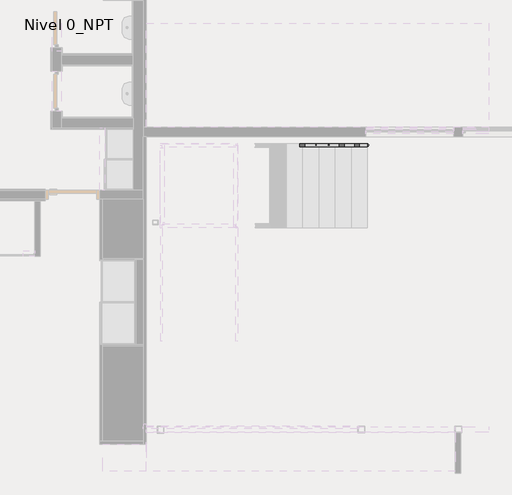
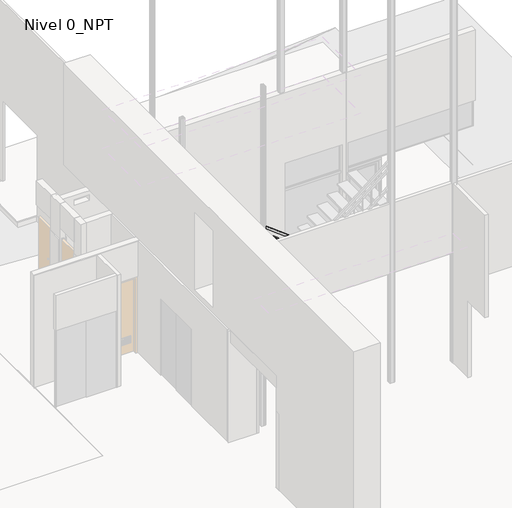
# One storey, part 9 of 10: 1 railing.
"""IFC4 building model written with IfcOpenShell, lengths in millimetres."""

from ifc_helpers import new_model, si_unit, point, frame, frame_2d, origin, place, context, project, spatial, circle_curve, ellipse_curve, trimmed, segment, composite_curve, outline, extrude, faceted_brep, element, save
from ifc_brep_helpers import plane_surface, cylinder_surface, advanced_brep

model = new_model("IFC4")

# Units and contexts
model_context = context("Model", 3, world=origin())
ifc_project = project(units=[si_unit("LENGTHUNIT", "METRE", prefix="MILLI")], contexts=[model_context])

# Site, building, storey
site = spatial("IfcSite", under=ifc_project)
building = spatial("IfcBuilding", under=site)
storey = spatial("IfcBuildingStorey", under=building, Name="Nivel 0_NPT", Elevation=0.0)

# Railing
placement = place(None, origin())
element("IfcRailing", 1, ObjectType="ARQ-BA-IN-Hi-Escalera", at=placement, inside=storey, context=model_context, shape_type="SolidModel", body=[
    faceted_brep([(9758.8126262, 6194.2250843, 1105.2017168), (9758.8126262, 6194.2250843, 1042.3471993), (9758.8126262, 6244.2250843, 1042.3471993), (9758.8126262, 6244.2250843, 1105.2017168), (7531.1003156, 6194.2250843, 2802.1807063), (7514.2255239, 6194.2250843, 2752.1807063), (7514.2255239, 6244.2250843, 2752.1807063), (7531.1003156, 6244.2250843, 2802.1807063), (6369.2126262, 6194.2250843, 2802.1807063), (6369.2126262, 6194.2250843, 2752.1807063), (6319.2126262, 6244.2250843, 2752.1807063), (6319.2126262, 6244.2250843, 2802.1807063), (6369.2126262, 5044.469706, 2802.1807063), (6369.2126262, 5027.4566897, 2752.1807063), (6319.2126262, 5027.4566897, 2752.1807063), (6319.2126262, 5044.469706, 2802.1807063), (6369.2126262, 3241.7500845, 4189.6), (6369.2126262, 3224.7370682, 4139.6), (6319.2126262, 3224.7370682, 4139.6), (6319.2126262, 3241.7500845, 4189.6), (6369.2126262, 2851.3500845, 4189.6), (6369.2126262, 2851.3500845, 4139.6), (6319.2126262, 2901.3500845, 4139.6), (6319.2126262, 2901.3500845, 4189.6), (6085.2126262, 2851.3500845, 4189.6), (6085.2126262, 2851.3500845, 4139.6), (6035.2126262, 2901.3500845, 4139.6), (6035.2126262, 2901.3500845, 4189.6), (6085.2126262, 2807.5750625, 4189.6), (6035.2126262, 2807.5750625, 4189.6), (6035.2126262, 2807.5750625, 4139.6), (6085.2126262, 2807.5750625, 4139.6)], [[[0, 1, 2, 3]], [[1, 0, 4, 5]], [[2, 1, 5, 6]], [[3, 2, 6, 7]], [[0, 3, 7, 4]], [[5, 4, 8, 9]], [[6, 5, 9, 10]], [[7, 6, 10, 11]], [[4, 7, 11, 8]], [[9, 8, 12, 13]], [[10, 9, 13, 14]], [[11, 10, 14, 15]], [[8, 11, 15, 12]], [[13, 12, 16, 17]], [[14, 13, 17, 18]], [[15, 14, 18, 19]], [[12, 15, 19, 16]], [[17, 16, 20, 21]], [[18, 17, 21, 22]], [[19, 18, 22, 23]], [[16, 19, 23, 20]], [[21, 20, 24, 25]], [[22, 21, 25, 26]], [[23, 22, 26, 27]], [[20, 23, 27, 24]], [[28, 29, 30, 31]], [[25, 24, 28, 31]], [[26, 25, 31, 30]], [[27, 26, 30, 29]], [[24, 27, 29, 28]]]),
    faceted_brep([(9758.8126262, 6244.2250843, 905.2017168), (9758.8126262, 6194.2250843, 905.2017168), (9758.8126262, 6194.2250843, 842.3471993), (9758.8126262, 6244.2250843, 842.3471993), (7531.1003156, 6244.2250843, 2602.1807063), (7531.1003156, 6194.2250843, 2602.1807063), (7514.2255239, 6194.2250843, 2552.1807063), (7514.2255239, 6244.2250843, 2552.1807063), (6319.2126262, 6244.2250843, 2602.1807063), (6319.2126262, 6244.2250843, 2552.1807063), (6369.2126262, 6194.2250843, 2552.1807063), (6369.2126262, 6194.2250843, 2602.1807063)], [[[0, 1, 2, 3]], [[1, 0, 4, 5]], [[2, 1, 5, 6]], [[3, 2, 6, 7]], [[0, 3, 7, 4]], [[8, 9, 10, 11]], [[5, 4, 8, 11]], [[6, 5, 11, 10]], [[7, 6, 10, 9]], [[4, 7, 9, 8]]]),
    faceted_brep([(6319.2126262, 6244.2250843, 2602.1807063), (6369.2126262, 6194.2250843, 2602.1807063), (6369.2126262, 6194.2250843, 2552.1807063), (6319.2126262, 6244.2250843, 2552.1807063), (6319.2126262, 5044.469706, 2602.1807063), (6369.2126262, 5044.469706, 2602.1807063), (6369.2126262, 5027.4566897, 2552.1807063), (6319.2126262, 5027.4566897, 2552.1807063), (6319.2126262, 3241.7500845, 3989.6), (6369.2126262, 3241.7500845, 3989.6), (6369.2126262, 3224.7370682, 3939.6), (6319.2126262, 3224.7370682, 3939.6), (6319.2126262, 2901.3500845, 3989.6), (6319.2126262, 2901.3500845, 3939.6), (6369.2126262, 2851.3500845, 3939.6), (6369.2126262, 2851.3500845, 3989.6)], [[[0, 1, 2, 3]], [[1, 0, 4, 5]], [[2, 1, 5, 6]], [[3, 2, 6, 7]], [[0, 3, 7, 4]], [[5, 4, 8, 9]], [[6, 5, 9, 10]], [[7, 6, 10, 11]], [[4, 7, 11, 8]], [[12, 13, 14, 15]], [[9, 8, 12, 15]], [[10, 9, 15, 14]], [[11, 10, 14, 13]], [[8, 11, 13, 12]]]),
    faceted_brep([(6319.2126262, 2901.3500845, 3989.6), (6369.2126262, 2851.3500845, 3989.6), (6369.2126262, 2851.3500845, 3939.6), (6319.2126262, 2901.3500845, 3939.6), (6035.2126262, 2901.3500845, 3989.6), (6035.2126262, 2901.3500845, 3939.6), (6085.2126262, 2851.3500845, 3939.6), (6085.2126262, 2851.3500845, 3989.6)], [[[0, 1, 2, 3]], [[4, 5, 6, 7]], [[1, 0, 4, 7]], [[2, 1, 7, 6]], [[3, 2, 6, 5]], [[0, 3, 5, 4]]]),
    faceted_brep([(6035.2126262, 2901.3500845, 3989.6), (6085.2126262, 2851.3500845, 3989.6), (6085.2126262, 2851.3500845, 3939.6), (6035.2126262, 2901.3500845, 3939.6), (6035.2126262, 2807.5750625, 3989.6), (6035.2126262, 2807.5750625, 3939.6), (6085.2126262, 2807.5750625, 3939.6), (6085.2126262, 2807.5750625, 3989.6)], [[[0, 1, 2, 3]], [[4, 5, 6, 7]], [[1, 0, 4, 7]], [[2, 1, 7, 6]], [[3, 2, 6, 5]], [[0, 3, 5, 4]]]),
    faceted_brep([(9758.8126262, 6244.2250843, 405.2017168), (9758.8126262, 6194.2250843, 405.2017168), (9758.8126262, 6194.2250843, 342.3471993), (9758.8126262, 6244.2250843, 342.3471993), (7531.1003156, 6244.2250843, 2102.1807063), (7531.1003156, 6194.2250843, 2102.1807063), (7514.2255239, 6194.2250843, 2052.1807063), (7514.2255239, 6244.2250843, 2052.1807063), (6319.2126262, 6244.2250843, 2102.1807063), (6319.2126262, 6244.2250843, 2052.1807063), (6369.2126262, 6194.2250843, 2052.1807063), (6369.2126262, 6194.2250843, 2102.1807063)], [[[0, 1, 2, 3]], [[1, 0, 4, 5]], [[2, 1, 5, 6]], [[3, 2, 6, 7]], [[0, 3, 7, 4]], [[8, 9, 10, 11]], [[5, 4, 8, 11]], [[6, 5, 11, 10]], [[7, 6, 10, 9]], [[4, 7, 9, 8]]]),
    faceted_brep([(6319.2126262, 6244.2250843, 2102.1807063), (6369.2126262, 6194.2250843, 2102.1807063), (6369.2126262, 6194.2250843, 2052.1807063), (6319.2126262, 6244.2250843, 2052.1807063), (6319.2126262, 5044.469706, 2102.1807063), (6369.2126262, 5044.469706, 2102.1807063), (6369.2126262, 5027.4566897, 2052.1807063), (6319.2126262, 5027.4566897, 2052.1807063), (6319.2126262, 3241.7500845, 3489.6), (6369.2126262, 3241.7500845, 3489.6), (6369.2126262, 3224.7370682, 3439.6), (6319.2126262, 3224.7370682, 3439.6), (6319.2126262, 2901.3500845, 3489.6), (6319.2126262, 2901.3500845, 3439.6), (6369.2126262, 2851.3500845, 3439.6), (6369.2126262, 2851.3500845, 3489.6)], [[[0, 1, 2, 3]], [[1, 0, 4, 5]], [[2, 1, 5, 6]], [[3, 2, 6, 7]], [[0, 3, 7, 4]], [[5, 4, 8, 9]], [[6, 5, 9, 10]], [[7, 6, 10, 11]], [[4, 7, 11, 8]], [[12, 13, 14, 15]], [[9, 8, 12, 15]], [[10, 9, 15, 14]], [[11, 10, 14, 13]], [[8, 11, 13, 12]]]),
    faceted_brep([(6319.2126262, 2901.3500845, 3489.6), (6369.2126262, 2851.3500845, 3489.6), (6369.2126262, 2851.3500845, 3439.6), (6319.2126262, 2901.3500845, 3439.6), (6035.2126262, 2901.3500845, 3489.6), (6035.2126262, 2901.3500845, 3439.6), (6085.2126262, 2851.3500845, 3439.6), (6085.2126262, 2851.3500845, 3489.6)], [[[0, 1, 2, 3]], [[4, 5, 6, 7]], [[1, 0, 4, 7]], [[2, 1, 7, 6]], [[3, 2, 6, 5]], [[0, 3, 5, 4]]]),
    faceted_brep([(6035.2126262, 2901.3500845, 3489.6), (6085.2126262, 2851.3500845, 3489.6), (6085.2126262, 2851.3500845, 3439.6), (6035.2126262, 2901.3500845, 3439.6), (6035.2126262, 2807.5750625, 3489.6), (6035.2126262, 2807.5750625, 3439.6), (6085.2126262, 2807.5750625, 3439.6), (6085.2126262, 2807.5750625, 3489.6)], [[[0, 1, 2, 3]], [[4, 5, 6, 7]], [[1, 0, 4, 7]], [[2, 1, 7, 6]], [[3, 2, 6, 5]], [[0, 3, 5, 4]]]),
    extrude(outline(composite_curve([segment(trimmed(circle_curve(frame_2d((6344.2126262, 3085.279772)), 7.5), [point((6351.7126262, 3085.279772))], [point((6336.7126262, 3085.279772))], False, "CARTESIAN"), True, "CONTINUOUS"), segment(trimmed(circle_curve(frame_2d((6344.2126262, 3085.279772)), 7.5), [point((6336.7126262, 3085.279772))], [point((6351.7126262, 3085.279772))], False, "CARTESIAN"), True, "CONTINUOUS")], self_intersect=False)), frame((0.0, 0.0, 3489.6), z_axis=(0.0, 0.0, 1.0), x_axis=(1.0, 0.0, 0.0)), (0.0, 0.0, 1.0), 450.0),
    advanced_brep(
    [(6336.7126262, 3294.2094595, 3899.2259185), (6336.7126262, 3294.2094595, 3449.2259185), (6351.7126262, 3294.2094595, 3449.2259185), (6351.7126262, 3294.2094595, 3899.2259185)],
    [
        (0, 1),
        (1, 2, ellipse_curve(frame((6344.2126262, 3294.2094595, 3449.2259185), z_axis=(0.0, 0.6059696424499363, 0.7954877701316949), x_axis=(0.0, -0.7954877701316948, 0.6059696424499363)), 9.4281776, 7.5)),
        (2, 3),
        (3, 0, ellipse_curve(frame((6344.2126262, 3294.2094595, 3899.2259185), z_axis=(0.0, -0.605969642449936, -0.7954877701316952), x_axis=(0.0, -0.7954877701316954, 0.605969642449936)), 9.4281776, 7.5)),
        (0, 3, ellipse_curve(frame((6344.2126262, 3294.2094595, 3899.2259185), z_axis=(0.0, -0.605969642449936, -0.7954877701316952), x_axis=(0.0, -0.7954877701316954, 0.605969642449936)), 9.4281776, 7.5)),
        (2, 1, ellipse_curve(frame((6344.2126262, 3294.2094595, 3449.2259185), z_axis=(0.0, 0.6059696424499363, 0.7954877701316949), x_axis=(0.0, -0.7954877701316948, 0.6059696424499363)), 9.4281776, 7.5)),
    ],
    [
        cylinder_surface(frame((6344.2126262, 3294.2094595, 3349.2259185), z_axis=(0.0, 0.0, 1.0), x_axis=(1.0, 0.0, 0.0)), 7.5),
        plane_surface(frame((6359.2126262, 3279.2094595, 3910.6522973), z_axis=(0.0, 0.605969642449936, 0.7954877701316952), x_axis=(-1.0, 0.0, 0.0))),
        plane_surface(frame((6359.2126262, 3309.2094595, 3437.7995396), z_axis=(0.0, -0.6059696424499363, -0.7954877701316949), x_axis=(-1.0, 0.0, 0.0))),
    ],
    [
        (0, [[1, 2, 3, 4]]),
        (0, [[-1, 5, -3, 6]]),
        (1, [[-4, -5]]),
        (2, [[-2, -6]]),
    ],
),
    advanced_brep(
    [(6336.7126262, 3503.1391469, 3738.4282681), (6336.7126262, 3503.1391469, 3288.4282681), (6351.7126262, 3503.1391469, 3288.4282681), (6351.7126262, 3503.1391469, 3738.4282681)],
    [
        (0, 1),
        (1, 2, ellipse_curve(frame((6344.2126262, 3503.1391469, 3288.4282681), z_axis=(0.0, 0.6059696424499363, 0.7954877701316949), x_axis=(0.0, -0.7954877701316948, 0.6059696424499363)), 9.4281776, 7.5)),
        (2, 3),
        (3, 0, ellipse_curve(frame((6344.2126262, 3503.1391469, 3738.4282681), z_axis=(0.0, -0.605969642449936, -0.7954877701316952), x_axis=(0.0, -0.7954877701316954, 0.605969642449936)), 9.4281776, 7.5)),
        (0, 3, ellipse_curve(frame((6344.2126262, 3503.1391469, 3738.4282681), z_axis=(0.0, -0.605969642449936, -0.7954877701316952), x_axis=(0.0, -0.7954877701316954, 0.605969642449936)), 9.4281776, 7.5)),
        (2, 1, ellipse_curve(frame((6344.2126262, 3503.1391469, 3288.4282681), z_axis=(0.0, 0.6059696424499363, 0.7954877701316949), x_axis=(0.0, -0.7954877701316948, 0.6059696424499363)), 9.4281776, 7.5)),
    ],
    [
        cylinder_surface(frame((6344.2126262, 3503.1391469, 3188.4282681), z_axis=(0.0, 0.0, 1.0), x_axis=(1.0, 0.0, 0.0)), 7.5),
        plane_surface(frame((6359.2126262, 3488.1391469, 3749.8546469), z_axis=(0.0, 0.605969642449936, 0.7954877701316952), x_axis=(-1.0, 0.0, 0.0))),
        plane_surface(frame((6359.2126262, 3518.1391469, 3277.0018892), z_axis=(0.0, -0.6059696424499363, -0.7954877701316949), x_axis=(-1.0, 0.0, 0.0))),
    ],
    [
        (0, [[1, 2, 3, 4]]),
        (0, [[-1, 5, -3, 6]]),
        (1, [[-4, -5]]),
        (2, [[-2, -6]]),
    ],
),
    advanced_brep(
    [(6336.7126262, 3712.0688344, 3577.6306177), (6336.7126262, 3712.0688344, 3127.6306177), (6351.7126262, 3712.0688344, 3127.6306177), (6351.7126262, 3712.0688344, 3577.6306177)],
    [
        (0, 1),
        (1, 2, ellipse_curve(frame((6344.2126262, 3712.0688344, 3127.6306177), z_axis=(0.0, 0.6059696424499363, 0.7954877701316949), x_axis=(0.0, -0.7954877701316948, 0.6059696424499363)), 9.4281776, 7.5)),
        (2, 3),
        (3, 0, ellipse_curve(frame((6344.2126262, 3712.0688344, 3577.6306177), z_axis=(0.0, -0.605969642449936, -0.7954877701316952), x_axis=(0.0, -0.7954877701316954, 0.605969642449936)), 9.4281776, 7.5)),
        (0, 3, ellipse_curve(frame((6344.2126262, 3712.0688344, 3577.6306177), z_axis=(0.0, -0.605969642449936, -0.7954877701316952), x_axis=(0.0, -0.7954877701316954, 0.605969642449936)), 9.4281776, 7.5)),
        (2, 1, ellipse_curve(frame((6344.2126262, 3712.0688344, 3127.6306177), z_axis=(0.0, 0.6059696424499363, 0.7954877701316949), x_axis=(0.0, -0.7954877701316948, 0.6059696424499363)), 9.4281776, 7.5)),
    ],
    [
        cylinder_surface(frame((6344.2126262, 3712.0688344, 3027.6306177), z_axis=(0.0, 0.0, 1.0), x_axis=(1.0, 0.0, 0.0)), 7.5),
        plane_surface(frame((6359.2126262, 3697.0688344, 3589.0569965), z_axis=(0.0, 0.605969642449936, 0.7954877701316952), x_axis=(-1.0, 0.0, 0.0))),
        plane_surface(frame((6359.2126262, 3727.0688344, 3116.2042388), z_axis=(0.0, -0.6059696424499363, -0.7954877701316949), x_axis=(-1.0, 0.0, 0.0))),
    ],
    [
        (0, [[1, 2, 3, 4]]),
        (0, [[-1, 5, -3, 6]]),
        (1, [[-4, -5]]),
        (2, [[-2, -6]]),
    ],
),
    advanced_brep(
    [(6336.7126262, 3920.9985219, 3416.8329673), (6336.7126262, 3920.9985219, 2966.8329673), (6351.7126262, 3920.9985219, 2966.8329673), (6351.7126262, 3920.9985219, 3416.8329673)],
    [
        (0, 1),
        (1, 2, ellipse_curve(frame((6344.2126262, 3920.9985219, 2966.8329673), z_axis=(0.0, 0.6059696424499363, 0.7954877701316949), x_axis=(0.0, -0.7954877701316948, 0.6059696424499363)), 9.4281776, 7.5)),
        (2, 3),
        (3, 0, ellipse_curve(frame((6344.2126262, 3920.9985219, 3416.8329673), z_axis=(0.0, -0.605969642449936, -0.7954877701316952), x_axis=(0.0, -0.7954877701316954, 0.605969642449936)), 9.4281776, 7.5)),
        (0, 3, ellipse_curve(frame((6344.2126262, 3920.9985219, 3416.8329673), z_axis=(0.0, -0.605969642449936, -0.7954877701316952), x_axis=(0.0, -0.7954877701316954, 0.605969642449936)), 9.4281776, 7.5)),
        (2, 1, ellipse_curve(frame((6344.2126262, 3920.9985219, 2966.8329673), z_axis=(0.0, 0.6059696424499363, 0.7954877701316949), x_axis=(0.0, -0.7954877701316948, 0.6059696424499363)), 9.4281776, 7.5)),
    ],
    [
        cylinder_surface(frame((6344.2126262, 3920.9985219, 2866.8329673), z_axis=(0.0, 0.0, 1.0), x_axis=(1.0, 0.0, 0.0)), 7.5),
        plane_surface(frame((6359.2126262, 3905.9985219, 3428.2593462), z_axis=(0.0, 0.605969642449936, 0.7954877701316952), x_axis=(-1.0, 0.0, 0.0))),
        plane_surface(frame((6359.2126262, 3935.9985219, 2955.4065884), z_axis=(0.0, -0.6059696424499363, -0.7954877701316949), x_axis=(-1.0, 0.0, 0.0))),
    ],
    [
        (0, [[1, 2, 3, 4]]),
        (0, [[-1, 5, -3, 6]]),
        (1, [[-4, -5]]),
        (2, [[-2, -6]]),
    ],
),
    advanced_brep(
    [(6336.7126262, 4129.9282094, 3256.0353169), (6336.7126262, 4129.9282094, 2806.0353169), (6351.7126262, 4129.9282094, 2806.0353169), (6351.7126262, 4129.9282094, 3256.0353169)],
    [
        (0, 1),
        (1, 2, ellipse_curve(frame((6344.2126262, 4129.9282094, 2806.0353169), z_axis=(0.0, 0.6059696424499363, 0.7954877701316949), x_axis=(0.0, -0.7954877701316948, 0.6059696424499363)), 9.4281776, 7.5)),
        (2, 3),
        (3, 0, ellipse_curve(frame((6344.2126262, 4129.9282094, 3256.0353169), z_axis=(0.0, -0.605969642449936, -0.7954877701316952), x_axis=(0.0, -0.7954877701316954, 0.605969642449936)), 9.4281776, 7.5)),
        (0, 3, ellipse_curve(frame((6344.2126262, 4129.9282094, 3256.0353169), z_axis=(0.0, -0.605969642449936, -0.7954877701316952), x_axis=(0.0, -0.7954877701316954, 0.605969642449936)), 9.4281776, 7.5)),
        (2, 1, ellipse_curve(frame((6344.2126262, 4129.9282094, 2806.0353169), z_axis=(0.0, 0.6059696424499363, 0.7954877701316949), x_axis=(0.0, -0.7954877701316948, 0.6059696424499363)), 9.4281776, 7.5)),
    ],
    [
        cylinder_surface(frame((6344.2126262, 4129.9282094, 2706.0353169), z_axis=(0.0, 0.0, 1.0), x_axis=(1.0, 0.0, 0.0)), 7.5),
        plane_surface(frame((6359.2126262, 4114.9282094, 3267.4616958), z_axis=(0.0, 0.605969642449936, 0.7954877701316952), x_axis=(-1.0, 0.0, 0.0))),
        plane_surface(frame((6359.2126262, 4144.9282094, 2794.6089381), z_axis=(0.0, -0.6059696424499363, -0.7954877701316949), x_axis=(-1.0, 0.0, 0.0))),
    ],
    [
        (0, [[1, 2, 3, 4]]),
        (0, [[-1, 5, -3, 6]]),
        (1, [[-4, -5]]),
        (2, [[-2, -6]]),
    ],
),
    advanced_brep(
    [(6336.7126262, 4338.8578969, 3095.2376665), (6336.7126262, 4338.8578969, 2645.2376665), (6351.7126262, 4338.8578969, 2645.2376665), (6351.7126262, 4338.8578969, 3095.2376665)],
    [
        (0, 1),
        (1, 2, ellipse_curve(frame((6344.2126262, 4338.8578969, 2645.2376665), z_axis=(0.0, 0.6059696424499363, 0.7954877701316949), x_axis=(0.0, -0.7954877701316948, 0.6059696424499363)), 9.4281776, 7.5)),
        (2, 3),
        (3, 0, ellipse_curve(frame((6344.2126262, 4338.8578969, 3095.2376665), z_axis=(0.0, -0.605969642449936, -0.7954877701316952), x_axis=(0.0, -0.7954877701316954, 0.605969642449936)), 9.4281776, 7.5)),
        (0, 3, ellipse_curve(frame((6344.2126262, 4338.8578969, 3095.2376665), z_axis=(0.0, -0.605969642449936, -0.7954877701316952), x_axis=(0.0, -0.7954877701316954, 0.605969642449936)), 9.4281776, 7.5)),
        (2, 1, ellipse_curve(frame((6344.2126262, 4338.8578969, 2645.2376665), z_axis=(0.0, 0.6059696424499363, 0.7954877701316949), x_axis=(0.0, -0.7954877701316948, 0.6059696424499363)), 9.4281776, 7.5)),
    ],
    [
        cylinder_surface(frame((6344.2126262, 4338.8578969, 2545.2376665), z_axis=(0.0, 0.0, 1.0), x_axis=(1.0, 0.0, 0.0)), 7.5),
        plane_surface(frame((6359.2126262, 4323.8578969, 3106.6640454), z_axis=(0.0, 0.605969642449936, 0.7954877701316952), x_axis=(-1.0, 0.0, 0.0))),
        plane_surface(frame((6359.2126262, 4353.8578969, 2633.8112877), z_axis=(0.0, -0.6059696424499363, -0.7954877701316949), x_axis=(-1.0, 0.0, 0.0))),
    ],
    [
        (0, [[1, 2, 3, 4]]),
        (0, [[-1, 5, -3, 6]]),
        (1, [[-4, -5]]),
        (2, [[-2, -6]]),
    ],
),
    advanced_brep(
    [(6336.7126262, 4547.7875844, 2934.4400161), (6336.7126262, 4547.7875844, 2484.4400161), (6351.7126262, 4547.7875844, 2484.4400161), (6351.7126262, 4547.7875844, 2934.4400161)],
    [
        (0, 1),
        (1, 2, ellipse_curve(frame((6344.2126262, 4547.7875844, 2484.4400161), z_axis=(0.0, 0.6059696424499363, 0.7954877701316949), x_axis=(0.0, -0.7954877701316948, 0.6059696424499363)), 9.4281776, 7.5)),
        (2, 3),
        (3, 0, ellipse_curve(frame((6344.2126262, 4547.7875844, 2934.4400161), z_axis=(0.0, -0.605969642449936, -0.7954877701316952), x_axis=(0.0, -0.7954877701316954, 0.605969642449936)), 9.4281776, 7.5)),
        (0, 3, ellipse_curve(frame((6344.2126262, 4547.7875844, 2934.4400161), z_axis=(0.0, -0.605969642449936, -0.7954877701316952), x_axis=(0.0, -0.7954877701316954, 0.605969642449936)), 9.4281776, 7.5)),
        (2, 1, ellipse_curve(frame((6344.2126262, 4547.7875844, 2484.4400161), z_axis=(0.0, 0.6059696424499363, 0.7954877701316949), x_axis=(0.0, -0.7954877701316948, 0.6059696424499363)), 9.4281776, 7.5)),
    ],
    [
        cylinder_surface(frame((6344.2126262, 4547.7875844, 2384.4400161), z_axis=(0.0, 0.0, 1.0), x_axis=(1.0, 0.0, 0.0)), 7.5),
        plane_surface(frame((6359.2126262, 4532.7875844, 2945.866395), z_axis=(0.0, 0.605969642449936, 0.7954877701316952), x_axis=(-1.0, 0.0, 0.0))),
        plane_surface(frame((6359.2126262, 4562.7875844, 2473.0136373), z_axis=(0.0, -0.6059696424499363, -0.7954877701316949), x_axis=(-1.0, 0.0, 0.0))),
    ],
    [
        (0, [[1, 2, 3, 4]]),
        (0, [[-1, 5, -3, 6]]),
        (1, [[-4, -5]]),
        (2, [[-2, -6]]),
    ],
),
    advanced_brep(
    [(6324.2126262, 4547.7875844, 3121.3463621), (6324.2126262, 4547.7875844, 2984.4400161), (6364.2126262, 4547.7875844, 2984.4400161), (6364.2126262, 4547.7875844, 3121.3463621)],
    [
        (0, 1),
        (1, 2, ellipse_curve(frame((6344.2126262, 4547.7875844, 2984.4400161), z_axis=(0.0, 0.6099073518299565, 0.7924727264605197), x_axis=(0.0, -0.7924727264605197, 0.6099073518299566)), 25.2374616, 20.0)),
        (2, 3),
        (3, 0, ellipse_curve(frame((6344.2126262, 4547.7875844, 3121.3463621), z_axis=(0.0, -0.609907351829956, -0.79247272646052), x_axis=(0.0, -0.79247272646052, 0.609907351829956)), 25.2374616, 20.0)),
        (0, 3, ellipse_curve(frame((6344.2126262, 4547.7875844, 3121.3463621), z_axis=(0.0, -0.609907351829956, -0.79247272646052), x_axis=(0.0, -0.79247272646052, 0.609907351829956)), 25.2374616, 20.0)),
        (2, 1, ellipse_curve(frame((6344.2126262, 4547.7875844, 2984.4400161), z_axis=(0.0, 0.6099073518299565, 0.7924727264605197), x_axis=(0.0, -0.7924727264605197, 0.6099073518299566)), 25.2374616, 20.0)),
    ],
    [
        cylinder_surface(frame((6344.2126262, 4547.7875844, 2884.4400161), z_axis=(0.0, 0.0, 1.0), x_axis=(1.0, 0.0, 0.0)), 20.0),
        plane_surface(frame((6384.2126262, 4507.7875844, 3152.1313889), z_axis=(0.0, 0.609907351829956, 0.79247272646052), x_axis=(-1.0, 0.0, 0.0))),
        plane_surface(frame((6384.2126262, 4587.7875844, 2953.6549894), z_axis=(0.0, -0.6099073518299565, -0.7924727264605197), x_axis=(-1.0, 0.0, 0.0))),
    ],
    [
        (0, [[1, 2, 3, 4]]),
        (0, [[-1, 5, -3, 6]]),
        (1, [[-4, -5]]),
        (2, [[-2, -6]]),
    ],
),
    advanced_brep(
    [(6336.7126262, 4756.7172719, 2773.6423657), (6336.7126262, 4756.7172719, 2323.6423657), (6351.7126262, 4756.7172719, 2323.6423657), (6351.7126262, 4756.7172719, 2773.6423657)],
    [
        (0, 1),
        (1, 2, ellipse_curve(frame((6344.2126262, 4756.7172719, 2323.6423657), z_axis=(0.0, 0.6059696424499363, 0.7954877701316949), x_axis=(0.0, -0.7954877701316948, 0.6059696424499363)), 9.4281776, 7.5)),
        (2, 3),
        (3, 0, ellipse_curve(frame((6344.2126262, 4756.7172719, 2773.6423657), z_axis=(0.0, -0.605969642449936, -0.7954877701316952), x_axis=(0.0, -0.7954877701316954, 0.605969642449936)), 9.4281776, 7.5)),
        (0, 3, ellipse_curve(frame((6344.2126262, 4756.7172719, 2773.6423657), z_axis=(0.0, -0.605969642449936, -0.7954877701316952), x_axis=(0.0, -0.7954877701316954, 0.605969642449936)), 9.4281776, 7.5)),
        (2, 1, ellipse_curve(frame((6344.2126262, 4756.7172719, 2323.6423657), z_axis=(0.0, 0.6059696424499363, 0.7954877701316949), x_axis=(0.0, -0.7954877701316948, 0.6059696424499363)), 9.4281776, 7.5)),
    ],
    [
        cylinder_surface(frame((6344.2126262, 4756.7172719, 2223.6423657), z_axis=(0.0, 0.0, 1.0), x_axis=(1.0, 0.0, 0.0)), 7.5),
        plane_surface(frame((6359.2126262, 4741.7172719, 2785.0687446), z_axis=(0.0, 0.605969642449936, 0.7954877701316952), x_axis=(-1.0, 0.0, 0.0))),
        plane_surface(frame((6359.2126262, 4771.7172719, 2312.2159869), z_axis=(0.0, -0.6059696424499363, -0.7954877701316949), x_axis=(-1.0, 0.0, 0.0))),
    ],
    [
        (0, [[1, 2, 3, 4]]),
        (0, [[-1, 5, -3, 6]]),
        (1, [[-4, -5]]),
        (2, [[-2, -6]]),
    ],
),
    advanced_brep(
    [(6336.7126262, 4965.6469593, 2612.8447154), (6336.7126262, 4965.6469593, 2162.8447154), (6351.7126262, 4965.6469593, 2162.8447154), (6351.7126262, 4965.6469593, 2612.8447154)],
    [
        (0, 1),
        (1, 2, ellipse_curve(frame((6344.2126262, 4965.6469593, 2162.8447154), z_axis=(0.0, 0.6059696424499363, 0.7954877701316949), x_axis=(0.0, -0.7954877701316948, 0.6059696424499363)), 9.4281776, 7.5)),
        (2, 3),
        (3, 0, ellipse_curve(frame((6344.2126262, 4965.6469593, 2612.8447154), z_axis=(0.0, -0.605969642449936, -0.7954877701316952), x_axis=(0.0, -0.7954877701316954, 0.605969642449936)), 9.4281776, 7.5)),
        (0, 3, ellipse_curve(frame((6344.2126262, 4965.6469593, 2612.8447154), z_axis=(0.0, -0.605969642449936, -0.7954877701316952), x_axis=(0.0, -0.7954877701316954, 0.605969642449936)), 9.4281776, 7.5)),
        (2, 1, ellipse_curve(frame((6344.2126262, 4965.6469593, 2162.8447154), z_axis=(0.0, 0.6059696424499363, 0.7954877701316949), x_axis=(0.0, -0.7954877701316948, 0.6059696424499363)), 9.4281776, 7.5)),
    ],
    [
        cylinder_surface(frame((6344.2126262, 4965.6469593, 2062.8447154), z_axis=(0.0, 0.0, 1.0), x_axis=(1.0, 0.0, 0.0)), 7.5),
        plane_surface(frame((6359.2126262, 4950.6469593, 2624.2710942), z_axis=(0.0, 0.605969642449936, 0.7954877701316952), x_axis=(-1.0, 0.0, 0.0))),
        plane_surface(frame((6359.2126262, 4980.6469593, 2151.4183365), z_axis=(0.0, -0.6059696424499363, -0.7954877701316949), x_axis=(-1.0, 0.0, 0.0))),
    ],
    [
        (0, [[1, 2, 3, 4]]),
        (0, [[-1, 5, -3, 6]]),
        (1, [[-4, -5]]),
        (2, [[-2, -6]]),
    ],
),
    extrude(outline(composite_curve([segment(trimmed(circle_curve(frame_2d((6344.2126262, 5174.5766468)), 7.5), [point((6351.7126262, 5174.5766468))], [point((6336.7126262, 5174.5766468))], False, "CARTESIAN"), True, "CONTINUOUS"), segment(trimmed(circle_curve(frame_2d((6344.2126262, 5174.5766468)), 7.5), [point((6336.7126262, 5174.5766468))], [point((6351.7126262, 5174.5766468))], False, "CARTESIAN"), True, "CONTINUOUS")], self_intersect=False)), frame((0.0, 0.0, 2102.1807063), z_axis=(0.0, 0.0, 1.0), x_axis=(1.0, 0.0, 0.0)), (0.0, 0.0, 1.0), 450.0),
    extrude(outline(composite_curve([segment(trimmed(circle_curve(frame_2d((6344.2126262, 5383.5063343)), 7.5), [point((6351.7126262, 5383.5063343))], [point((6336.7126262, 5383.5063343))], False, "CARTESIAN"), True, "CONTINUOUS"), segment(trimmed(circle_curve(frame_2d((6344.2126262, 5383.5063343)), 7.5), [point((6336.7126262, 5383.5063343))], [point((6351.7126262, 5383.5063343))], False, "CARTESIAN"), True, "CONTINUOUS")], self_intersect=False)), frame((0.0, 0.0, 2102.1807063), z_axis=(0.0, 0.0, 1.0), x_axis=(1.0, 0.0, 0.0)), (0.0, 0.0, 1.0), 450.0),
    extrude(outline(composite_curve([segment(trimmed(circle_curve(frame_2d((6344.2126262, 5592.4360218)), 7.5), [point((6351.7126262, 5592.4360218))], [point((6336.7126262, 5592.4360218))], False, "CARTESIAN"), True, "CONTINUOUS"), segment(trimmed(circle_curve(frame_2d((6344.2126262, 5592.4360218)), 7.5), [point((6336.7126262, 5592.4360218))], [point((6351.7126262, 5592.4360218))], False, "CARTESIAN"), True, "CONTINUOUS")], self_intersect=False)), frame((0.0, 0.0, 2102.1807063), z_axis=(0.0, 0.0, 1.0), x_axis=(1.0, 0.0, 0.0)), (0.0, 0.0, 1.0), 450.0),
    extrude(outline(composite_curve([segment(trimmed(circle_curve(frame_2d((6344.2126262, 5801.3657093)), 7.5), [point((6351.7126262, 5801.3657093))], [point((6336.7126262, 5801.3657093))], False, "CARTESIAN"), True, "CONTINUOUS"), segment(trimmed(circle_curve(frame_2d((6344.2126262, 5801.3657093)), 7.5), [point((6336.7126262, 5801.3657093))], [point((6351.7126262, 5801.3657093))], False, "CARTESIAN"), True, "CONTINUOUS")], self_intersect=False)), frame((0.0, 0.0, 2102.1807063), z_axis=(0.0, 0.0, 1.0), x_axis=(1.0, 0.0, 0.0)), (0.0, 0.0, 1.0), 450.0),
    extrude(outline(composite_curve([segment(trimmed(circle_curve(frame_2d((6344.2126262, 6010.2953968)), 7.5), [point((6351.7126262, 6010.2953968))], [point((6336.7126262, 6010.2953968))], False, "CARTESIAN"), True, "CONTINUOUS"), segment(trimmed(circle_curve(frame_2d((6344.2126262, 6010.2953968)), 7.5), [point((6336.7126262, 6010.2953968))], [point((6351.7126262, 6010.2953968))], False, "CARTESIAN"), True, "CONTINUOUS")], self_intersect=False)), frame((0.0, 0.0, 2102.1807063), z_axis=(0.0, 0.0, 1.0), x_axis=(1.0, 0.0, 0.0)), (0.0, 0.0, 1.0), 450.0),
    extrude(outline(composite_curve([segment(trimmed(circle_curve(frame_2d((6557.6251262, 6219.2250843)), 7.5), [point((6557.6251262, 6211.7250843))], [point((6557.6251262, 6226.7250843))], False, "CARTESIAN"), True, "CONTINUOUS"), segment(trimmed(circle_curve(frame_2d((6557.6251262, 6219.2250843)), 7.5), [point((6557.6251262, 6226.7250843))], [point((6557.6251262, 6211.7250843))], False, "CARTESIAN"), True, "CONTINUOUS")], self_intersect=False)), frame((0.0, 0.0, 2102.1807063), z_axis=(0.0, 0.0, 1.0), x_axis=(1.0, 0.0, 0.0)), (0.0, 0.0, 1.0), 450.0),
    extrude(outline(composite_curve([segment(trimmed(circle_curve(frame_2d((6771.0376262, 6219.2250843)), 7.5), [point((6771.0376262, 6211.7250843))], [point((6771.0376262, 6226.7250843))], False, "CARTESIAN"), True, "CONTINUOUS"), segment(trimmed(circle_curve(frame_2d((6771.0376262, 6219.2250843)), 7.5), [point((6771.0376262, 6226.7250843))], [point((6771.0376262, 6211.7250843))], False, "CARTESIAN"), True, "CONTINUOUS")], self_intersect=False)), frame((0.0, 0.0, 2102.1807063), z_axis=(0.0, 0.0, 1.0), x_axis=(1.0, 0.0, 0.0)), (0.0, 0.0, 1.0), 450.0),
    extrude(outline(composite_curve([segment(trimmed(circle_curve(frame_2d((6984.4501262, 6219.2250843)), 7.5), [point((6984.4501262, 6211.7250843))], [point((6984.4501262, 6226.7250843))], False, "CARTESIAN"), True, "CONTINUOUS"), segment(trimmed(circle_curve(frame_2d((6984.4501262, 6219.2250843)), 7.5), [point((6984.4501262, 6226.7250843))], [point((6984.4501262, 6211.7250843))], False, "CARTESIAN"), True, "CONTINUOUS")], self_intersect=False)), frame((0.0, 0.0, 2102.1807063), z_axis=(0.0, 0.0, 1.0), x_axis=(1.0, 0.0, 0.0)), (0.0, 0.0, 1.0), 450.0),
    extrude(outline(composite_curve([segment(trimmed(circle_curve(frame_2d((7197.8626262, 6219.2250843)), 7.5), [point((7197.8626262, 6211.7250843))], [point((7197.8626262, 6226.7250843))], False, "CARTESIAN"), True, "CONTINUOUS"), segment(trimmed(circle_curve(frame_2d((7197.8626262, 6219.2250843)), 7.5), [point((7197.8626262, 6226.7250843))], [point((7197.8626262, 6211.7250843))], False, "CARTESIAN"), True, "CONTINUOUS")], self_intersect=False)), frame((0.0, 0.0, 2102.1807063), z_axis=(0.0, 0.0, 1.0), x_axis=(1.0, 0.0, 0.0)), (0.0, 0.0, 1.0), 450.0),
    extrude(outline(composite_curve([segment(trimmed(circle_curve(frame_2d((7411.2751262, 6219.2250843)), 7.5), [point((7411.2751262, 6211.7250843))], [point((7411.2751262, 6226.7250843))], False, "CARTESIAN"), True, "CONTINUOUS"), segment(trimmed(circle_curve(frame_2d((7411.2751262, 6219.2250843)), 7.5), [point((7411.2751262, 6226.7250843))], [point((7411.2751262, 6211.7250843))], False, "CARTESIAN"), True, "CONTINUOUS")], self_intersect=False)), frame((0.0, 0.0, 2102.1807063), z_axis=(0.0, 0.0, 1.0), x_axis=(1.0, 0.0, 0.0)), (0.0, 0.0, 1.0), 450.0),
    advanced_brep(
    [(7624.6876262, 6226.7250843, 2480.8897685), (7624.6876262, 6226.7250843, 2030.8897685), (7624.6876262, 6211.7250843, 2030.8897685), (7624.6876262, 6211.7250843, 2480.8897685)],
    [
        (0, 1),
        (1, 2, ellipse_curve(frame((7624.6876262, 6219.2250843, 2030.8897685), z_axis=(0.6059696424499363, 0.0, 0.7954877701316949), x_axis=(-0.7954877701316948, 0.0, 0.6059696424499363)), 9.4281776, 7.5)),
        (2, 3),
        (3, 0, ellipse_curve(frame((7624.6876262, 6219.2250843, 2480.8897685), z_axis=(-0.605969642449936, 0.0, -0.7954877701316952), x_axis=(-0.7954877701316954, 0.0, 0.605969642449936)), 9.4281776, 7.5)),
        (0, 3, ellipse_curve(frame((7624.6876262, 6219.2250843, 2480.8897685), z_axis=(-0.605969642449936, 0.0, -0.7954877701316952), x_axis=(-0.7954877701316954, 0.0, 0.605969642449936)), 9.4281776, 7.5)),
        (2, 1, ellipse_curve(frame((7624.6876262, 6219.2250843, 2030.8897685), z_axis=(0.6059696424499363, 0.0, 0.7954877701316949), x_axis=(-0.7954877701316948, 0.0, 0.6059696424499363)), 9.4281776, 7.5)),
    ],
    [
        cylinder_surface(frame((7624.6876262, 6219.2250843, 1930.8897685), z_axis=(0.0, 0.0, 1.0), x_axis=(0.0, -1.0, 0.0)), 7.5),
        plane_surface(frame((7609.6876262, 6204.2250843, 2492.3161474), z_axis=(0.605969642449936, 0.0, 0.7954877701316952), x_axis=(0.0, 1.0, 0.0))),
        plane_surface(frame((7639.6876262, 6204.2250843, 2019.4633897), z_axis=(-0.6059696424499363, 0.0, -0.7954877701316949), x_axis=(0.0, 1.0, 0.0))),
    ],
    [
        (0, [[1, 2, 3, 4]]),
        (0, [[-1, 5, -3, 6]]),
        (1, [[-4, -5]]),
        (2, [[-2, -6]]),
    ],
),
    advanced_brep(
    [(7838.1001262, 6226.7250843, 2318.3209634), (7838.1001262, 6226.7250843, 1868.3209634), (7838.1001262, 6211.7250843, 1868.3209634), (7838.1001262, 6211.7250843, 2318.3209634)],
    [
        (0, 1),
        (1, 2, ellipse_curve(frame((7838.1001262, 6219.2250843, 1868.3209634), z_axis=(0.6059696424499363, 0.0, 0.7954877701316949), x_axis=(-0.7954877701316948, 0.0, 0.6059696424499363)), 9.4281776, 7.5)),
        (2, 3),
        (3, 0, ellipse_curve(frame((7838.1001262, 6219.2250843, 2318.3209634), z_axis=(-0.605969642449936, 0.0, -0.7954877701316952), x_axis=(-0.7954877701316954, 0.0, 0.605969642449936)), 9.4281776, 7.5)),
        (0, 3, ellipse_curve(frame((7838.1001262, 6219.2250843, 2318.3209634), z_axis=(-0.605969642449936, 0.0, -0.7954877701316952), x_axis=(-0.7954877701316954, 0.0, 0.605969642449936)), 9.4281776, 7.5)),
        (2, 1, ellipse_curve(frame((7838.1001262, 6219.2250843, 1868.3209634), z_axis=(0.6059696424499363, 0.0, 0.7954877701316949), x_axis=(-0.7954877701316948, 0.0, 0.6059696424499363)), 9.4281776, 7.5)),
    ],
    [
        cylinder_surface(frame((7838.1001262, 6219.2250843, 1768.3209634), z_axis=(0.0, 0.0, 1.0), x_axis=(0.0, -1.0, 0.0)), 7.5),
        plane_surface(frame((7823.1001262, 6204.2250843, 2329.7473422), z_axis=(0.605969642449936, 0.0, 0.7954877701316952), x_axis=(0.0, 1.0, 0.0))),
        plane_surface(frame((7853.1001262, 6204.2250843, 1856.8945845), z_axis=(-0.6059696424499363, 0.0, -0.7954877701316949), x_axis=(0.0, 1.0, 0.0))),
    ],
    [
        (0, [[1, 2, 3, 4]]),
        (0, [[-1, 5, -3, 6]]),
        (1, [[-4, -5]]),
        (2, [[-2, -6]]),
    ],
),
    advanced_brep(
    [(8051.5126262, 6226.7250843, 2155.7521582), (8051.5126262, 6226.7250843, 1705.7521582), (8051.5126262, 6211.7250843, 1705.7521582), (8051.5126262, 6211.7250843, 2155.7521582)],
    [
        (0, 1),
        (1, 2, ellipse_curve(frame((8051.5126262, 6219.2250843, 1705.7521582), z_axis=(0.6059696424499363, 0.0, 0.7954877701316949), x_axis=(-0.7954877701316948, 0.0, 0.6059696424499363)), 9.4281776, 7.5)),
        (2, 3),
        (3, 0, ellipse_curve(frame((8051.5126262, 6219.2250843, 2155.7521582), z_axis=(-0.605969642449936, 0.0, -0.7954877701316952), x_axis=(-0.7954877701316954, 0.0, 0.605969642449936)), 9.4281776, 7.5)),
        (0, 3, ellipse_curve(frame((8051.5126262, 6219.2250843, 2155.7521582), z_axis=(-0.605969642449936, 0.0, -0.7954877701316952), x_axis=(-0.7954877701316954, 0.0, 0.605969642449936)), 9.4281776, 7.5)),
        (2, 1, ellipse_curve(frame((8051.5126262, 6219.2250843, 1705.7521582), z_axis=(0.6059696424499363, 0.0, 0.7954877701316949), x_axis=(-0.7954877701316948, 0.0, 0.6059696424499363)), 9.4281776, 7.5)),
    ],
    [
        cylinder_surface(frame((8051.5126262, 6219.2250843, 1605.7521582), z_axis=(0.0, 0.0, 1.0), x_axis=(0.0, -1.0, 0.0)), 7.5),
        plane_surface(frame((8036.5126262, 6204.2250843, 2167.178537), z_axis=(0.605969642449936, 0.0, 0.7954877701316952), x_axis=(0.0, 1.0, 0.0))),
        plane_surface(frame((8066.5126262, 6204.2250843, 1694.3257793), z_axis=(-0.6059696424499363, 0.0, -0.7954877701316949), x_axis=(0.0, 1.0, 0.0))),
    ],
    [
        (0, [[1, 2, 3, 4]]),
        (0, [[-1, 5, -3, 6]]),
        (1, [[-4, -5]]),
        (2, [[-2, -6]]),
    ],
),
    advanced_brep(
    [(8051.5126262, 6239.2250843, 2342.8976406), (8051.5126262, 6239.2250843, 2205.7521582), (8051.5126262, 6199.2250843, 2205.7521582), (8051.5126262, 6199.2250843, 2342.8976406)],
    [
        (0, 1),
        (1, 2, ellipse_curve(frame((8051.5126262, 6219.2250843, 2205.7521582), z_axis=(0.6059696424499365, 0.0, 0.7954877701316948), x_axis=(-0.7954877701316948, 0.0, 0.6059696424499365)), 25.141807, 20.0)),
        (2, 3),
        (3, 0, ellipse_curve(frame((8051.5126262, 6219.2250843, 2342.8976406), z_axis=(-0.6059696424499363, 0.0, -0.7954877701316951), x_axis=(-0.7954877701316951, 0.0, 0.6059696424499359)), 25.141807, 20.0)),
        (0, 3, ellipse_curve(frame((8051.5126262, 6219.2250843, 2342.8976406), z_axis=(-0.6059696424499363, 0.0, -0.7954877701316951), x_axis=(-0.7954877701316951, 0.0, 0.6059696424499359)), 25.141807, 20.0)),
        (2, 1, ellipse_curve(frame((8051.5126262, 6219.2250843, 2205.7521582), z_axis=(0.6059696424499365, 0.0, 0.7954877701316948), x_axis=(-0.7954877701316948, 0.0, 0.6059696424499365)), 25.141807, 20.0)),
    ],
    [
        cylinder_surface(frame((8051.5126262, 6219.2250843, 2105.7521582), z_axis=(0.0, 0.0, 1.0), x_axis=(0.0, -1.0, 0.0)), 20.0),
        plane_surface(frame((8011.5126262, 6179.2250843, 2373.3679843), z_axis=(0.6059696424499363, 0.0, 0.7954877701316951), x_axis=(0.0, 1.0, 0.0))),
        plane_surface(frame((8091.5126262, 6179.2250843, 2175.2818146), z_axis=(-0.6059696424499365, 0.0, -0.7954877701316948), x_axis=(0.0, 1.0, 0.0))),
    ],
    [
        (0, [[1, 2, 3, 4]]),
        (0, [[-1, 5, -3, 6]]),
        (1, [[-4, -5]]),
        (2, [[-2, -6]]),
    ],
),
    advanced_brep(
    [(8264.9251262, 6226.7250843, 1993.183353), (8264.9251262, 6226.7250843, 1543.183353), (8264.9251262, 6211.7250843, 1543.183353), (8264.9251262, 6211.7250843, 1993.183353)],
    [
        (0, 1),
        (1, 2, ellipse_curve(frame((8264.9251262, 6219.2250843, 1543.183353), z_axis=(0.6059696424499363, 0.0, 0.7954877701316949), x_axis=(-0.7954877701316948, 0.0, 0.6059696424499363)), 9.4281776, 7.5)),
        (2, 3),
        (3, 0, ellipse_curve(frame((8264.9251262, 6219.2250843, 1993.183353), z_axis=(-0.605969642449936, 0.0, -0.7954877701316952), x_axis=(-0.7954877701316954, 0.0, 0.605969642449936)), 9.4281776, 7.5)),
        (0, 3, ellipse_curve(frame((8264.9251262, 6219.2250843, 1993.183353), z_axis=(-0.605969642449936, 0.0, -0.7954877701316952), x_axis=(-0.7954877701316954, 0.0, 0.605969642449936)), 9.4281776, 7.5)),
        (2, 1, ellipse_curve(frame((8264.9251262, 6219.2250843, 1543.183353), z_axis=(0.6059696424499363, 0.0, 0.7954877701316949), x_axis=(-0.7954877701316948, 0.0, 0.6059696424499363)), 9.4281776, 7.5)),
    ],
    [
        cylinder_surface(frame((8264.9251262, 6219.2250843, 1443.183353), z_axis=(0.0, 0.0, 1.0), x_axis=(0.0, -1.0, 0.0)), 7.5),
        plane_surface(frame((8249.9251262, 6204.2250843, 2004.6097319), z_axis=(0.605969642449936, 0.0, 0.7954877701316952), x_axis=(0.0, 1.0, 0.0))),
        plane_surface(frame((8279.9251262, 6204.2250843, 1531.7569742), z_axis=(-0.6059696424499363, 0.0, -0.7954877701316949), x_axis=(0.0, 1.0, 0.0))),
    ],
    [
        (0, [[1, 2, 3, 4]]),
        (0, [[-1, 5, -3, 6]]),
        (1, [[-4, -5]]),
        (2, [[-2, -6]]),
    ],
),
    advanced_brep(
    [(8478.3376262, 6226.7250843, 1830.6145478), (8478.3376262, 6226.7250843, 1380.6145478), (8478.3376262, 6211.7250843, 1380.6145478), (8478.3376262, 6211.7250843, 1830.6145478)],
    [
        (0, 1),
        (1, 2, ellipse_curve(frame((8478.3376262, 6219.2250843, 1380.6145478), z_axis=(0.6059696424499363, 0.0, 0.7954877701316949), x_axis=(-0.7954877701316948, 0.0, 0.6059696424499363)), 9.4281776, 7.5)),
        (2, 3),
        (3, 0, ellipse_curve(frame((8478.3376262, 6219.2250843, 1830.6145478), z_axis=(-0.605969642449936, 0.0, -0.7954877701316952), x_axis=(-0.7954877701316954, 0.0, 0.605969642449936)), 9.4281776, 7.5)),
        (0, 3, ellipse_curve(frame((8478.3376262, 6219.2250843, 1830.6145478), z_axis=(-0.605969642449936, 0.0, -0.7954877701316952), x_axis=(-0.7954877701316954, 0.0, 0.605969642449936)), 9.4281776, 7.5)),
        (2, 1, ellipse_curve(frame((8478.3376262, 6219.2250843, 1380.6145478), z_axis=(0.6059696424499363, 0.0, 0.7954877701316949), x_axis=(-0.7954877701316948, 0.0, 0.6059696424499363)), 9.4281776, 7.5)),
    ],
    [
        cylinder_surface(frame((8478.3376262, 6219.2250843, 1280.6145478), z_axis=(0.0, 0.0, 1.0), x_axis=(0.0, -1.0, 0.0)), 7.5),
        plane_surface(frame((8463.3376262, 6204.2250843, 1842.0409267), z_axis=(0.605969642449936, 0.0, 0.7954877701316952), x_axis=(0.0, 1.0, 0.0))),
        plane_surface(frame((8493.3376262, 6204.2250843, 1369.188169), z_axis=(-0.6059696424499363, 0.0, -0.7954877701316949), x_axis=(0.0, 1.0, 0.0))),
    ],
    [
        (0, [[1, 2, 3, 4]]),
        (0, [[-1, 5, -3, 6]]),
        (1, [[-4, -5]]),
        (2, [[-2, -6]]),
    ],
),
    advanced_brep(
    [(8691.7501262, 6226.7250843, 1668.0457427), (8691.7501262, 6226.7250843, 1218.0457427), (8691.7501262, 6211.7250843, 1218.0457427), (8691.7501262, 6211.7250843, 1668.0457427)],
    [
        (0, 1),
        (1, 2, ellipse_curve(frame((8691.7501262, 6219.2250843, 1218.0457427), z_axis=(0.6059696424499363, 0.0, 0.7954877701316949), x_axis=(-0.7954877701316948, 0.0, 0.6059696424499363)), 9.4281776, 7.5)),
        (2, 3),
        (3, 0, ellipse_curve(frame((8691.7501262, 6219.2250843, 1668.0457427), z_axis=(-0.605969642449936, 0.0, -0.7954877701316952), x_axis=(-0.7954877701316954, 0.0, 0.605969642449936)), 9.4281776, 7.5)),
        (0, 3, ellipse_curve(frame((8691.7501262, 6219.2250843, 1668.0457427), z_axis=(-0.605969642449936, 0.0, -0.7954877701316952), x_axis=(-0.7954877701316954, 0.0, 0.605969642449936)), 9.4281776, 7.5)),
        (2, 1, ellipse_curve(frame((8691.7501262, 6219.2250843, 1218.0457427), z_axis=(0.6059696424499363, 0.0, 0.7954877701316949), x_axis=(-0.7954877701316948, 0.0, 0.6059696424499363)), 9.4281776, 7.5)),
    ],
    [
        cylinder_surface(frame((8691.7501262, 6219.2250843, 1118.0457427), z_axis=(0.0, 0.0, 1.0), x_axis=(0.0, -1.0, 0.0)), 7.5),
        plane_surface(frame((8676.7501262, 6204.2250843, 1679.4721215), z_axis=(0.605969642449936, 0.0, 0.7954877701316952), x_axis=(0.0, 1.0, 0.0))),
        plane_surface(frame((8706.7501262, 6204.2250843, 1206.6193638), z_axis=(-0.6059696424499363, 0.0, -0.7954877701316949), x_axis=(0.0, 1.0, 0.0))),
    ],
    [
        (0, [[1, 2, 3, 4]]),
        (0, [[-1, 5, -3, 6]]),
        (1, [[-4, -5]]),
        (2, [[-2, -6]]),
    ],
),
    advanced_brep(
    [(8905.1626262, 6226.7250843, 1505.4769375), (8905.1626262, 6226.7250843, 1055.4769375), (8905.1626262, 6211.7250843, 1055.4769375), (8905.1626262, 6211.7250843, 1505.4769375)],
    [
        (0, 1),
        (1, 2, ellipse_curve(frame((8905.1626262, 6219.2250843, 1055.4769375), z_axis=(0.6059696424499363, 0.0, 0.7954877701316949), x_axis=(-0.7954877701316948, 0.0, 0.6059696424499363)), 9.4281776, 7.5)),
        (2, 3),
        (3, 0, ellipse_curve(frame((8905.1626262, 6219.2250843, 1505.4769375), z_axis=(-0.605969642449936, 0.0, -0.7954877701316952), x_axis=(-0.7954877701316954, 0.0, 0.605969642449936)), 9.4281776, 7.5)),
        (0, 3, ellipse_curve(frame((8905.1626262, 6219.2250843, 1505.4769375), z_axis=(-0.605969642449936, 0.0, -0.7954877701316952), x_axis=(-0.7954877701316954, 0.0, 0.605969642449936)), 9.4281776, 7.5)),
        (2, 1, ellipse_curve(frame((8905.1626262, 6219.2250843, 1055.4769375), z_axis=(0.6059696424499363, 0.0, 0.7954877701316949), x_axis=(-0.7954877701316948, 0.0, 0.6059696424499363)), 9.4281776, 7.5)),
    ],
    [
        cylinder_surface(frame((8905.1626262, 6219.2250843, 955.4769375), z_axis=(0.0, 0.0, 1.0), x_axis=(0.0, -1.0, 0.0)), 7.5),
        plane_surface(frame((8890.1626262, 6204.2250843, 1516.9033164), z_axis=(0.605969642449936, 0.0, 0.7954877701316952), x_axis=(0.0, 1.0, 0.0))),
        plane_surface(frame((8920.1626262, 6204.2250843, 1044.0505586), z_axis=(-0.6059696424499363, 0.0, -0.7954877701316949), x_axis=(0.0, 1.0, 0.0))),
    ],
    [
        (0, [[1, 2, 3, 4]]),
        (0, [[-1, 5, -3, 6]]),
        (1, [[-4, -5]]),
        (2, [[-2, -6]]),
    ],
),
    advanced_brep(
    [(9118.5751262, 6226.7250843, 1342.9081323), (9118.5751262, 6226.7250843, 892.9081323), (9118.5751262, 6211.7250843, 892.9081323), (9118.5751262, 6211.7250843, 1342.9081323)],
    [
        (0, 1),
        (1, 2, ellipse_curve(frame((9118.5751262, 6219.2250843, 892.9081323), z_axis=(0.6059696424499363, 0.0, 0.7954877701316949), x_axis=(-0.7954877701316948, 0.0, 0.6059696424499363)), 9.4281776, 7.5)),
        (2, 3),
        (3, 0, ellipse_curve(frame((9118.5751262, 6219.2250843, 1342.9081323), z_axis=(-0.605969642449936, 0.0, -0.7954877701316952), x_axis=(-0.7954877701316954, 0.0, 0.605969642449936)), 9.4281776, 7.5)),
        (0, 3, ellipse_curve(frame((9118.5751262, 6219.2250843, 1342.9081323), z_axis=(-0.605969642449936, 0.0, -0.7954877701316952), x_axis=(-0.7954877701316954, 0.0, 0.605969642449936)), 9.4281776, 7.5)),
        (2, 1, ellipse_curve(frame((9118.5751262, 6219.2250843, 892.9081323), z_axis=(0.6059696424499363, 0.0, 0.7954877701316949), x_axis=(-0.7954877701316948, 0.0, 0.6059696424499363)), 9.4281776, 7.5)),
    ],
    [
        cylinder_surface(frame((9118.5751262, 6219.2250843, 792.9081323), z_axis=(0.0, 0.0, 1.0), x_axis=(0.0, -1.0, 0.0)), 7.5),
        plane_surface(frame((9103.5751262, 6204.2250843, 1354.3345112), z_axis=(0.605969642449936, 0.0, 0.7954877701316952), x_axis=(0.0, 1.0, 0.0))),
        plane_surface(frame((9133.5751262, 6204.2250843, 881.4817535), z_axis=(-0.6059696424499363, 0.0, -0.7954877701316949), x_axis=(0.0, 1.0, 0.0))),
    ],
    [
        (0, [[1, 2, 3, 4]]),
        (0, [[-1, 5, -3, 6]]),
        (1, [[-4, -5]]),
        (2, [[-2, -6]]),
    ],
),
    advanced_brep(
    [(9331.9876262, 6226.7250843, 1180.3393272), (9331.9876262, 6226.7250843, 730.3393272), (9331.9876262, 6211.7250843, 730.3393272), (9331.9876262, 6211.7250843, 1180.3393272)],
    [
        (0, 1),
        (1, 2, ellipse_curve(frame((9331.9876262, 6219.2250843, 730.3393272), z_axis=(0.6059696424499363, 0.0, 0.7954877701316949), x_axis=(-0.7954877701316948, 0.0, 0.6059696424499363)), 9.4281776, 7.5)),
        (2, 3),
        (3, 0, ellipse_curve(frame((9331.9876262, 6219.2250843, 1180.3393272), z_axis=(-0.605969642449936, 0.0, -0.7954877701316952), x_axis=(-0.7954877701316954, 0.0, 0.605969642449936)), 9.4281776, 7.5)),
        (0, 3, ellipse_curve(frame((9331.9876262, 6219.2250843, 1180.3393272), z_axis=(-0.605969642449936, 0.0, -0.7954877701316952), x_axis=(-0.7954877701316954, 0.0, 0.605969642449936)), 9.4281776, 7.5)),
        (2, 1, ellipse_curve(frame((9331.9876262, 6219.2250843, 730.3393272), z_axis=(0.6059696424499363, 0.0, 0.7954877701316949), x_axis=(-0.7954877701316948, 0.0, 0.6059696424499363)), 9.4281776, 7.5)),
    ],
    [
        cylinder_surface(frame((9331.9876262, 6219.2250843, 630.3393272), z_axis=(0.0, 0.0, 1.0), x_axis=(0.0, -1.0, 0.0)), 7.5),
        plane_surface(frame((9316.9876262, 6204.2250843, 1191.765706), z_axis=(0.605969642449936, 0.0, 0.7954877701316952), x_axis=(0.0, 1.0, 0.0))),
        plane_surface(frame((9346.9876262, 6204.2250843, 718.9129483), z_axis=(-0.6059696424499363, 0.0, -0.7954877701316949), x_axis=(0.0, 1.0, 0.0))),
    ],
    [
        (0, [[1, 2, 3, 4]]),
        (0, [[-1, 5, -3, 6]]),
        (1, [[-4, -5]]),
        (2, [[-2, -6]]),
    ],
),
    advanced_brep(
    [(9545.4001262, 6226.7250843, 1017.770522), (9545.4001262, 6226.7250843, 567.770522), (9545.4001262, 6211.7250843, 567.770522), (9545.4001262, 6211.7250843, 1017.770522)],
    [
        (0, 1),
        (1, 2, ellipse_curve(frame((9545.4001262, 6219.2250843, 567.770522), z_axis=(0.6059696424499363, 0.0, 0.7954877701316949), x_axis=(-0.7954877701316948, 0.0, 0.6059696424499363)), 9.4281776, 7.5)),
        (2, 3),
        (3, 0, ellipse_curve(frame((9545.4001262, 6219.2250843, 1017.770522), z_axis=(-0.605969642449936, 0.0, -0.7954877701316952), x_axis=(-0.7954877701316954, 0.0, 0.605969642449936)), 9.4281776, 7.5)),
        (0, 3, ellipse_curve(frame((9545.4001262, 6219.2250843, 1017.770522), z_axis=(-0.605969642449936, 0.0, -0.7954877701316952), x_axis=(-0.7954877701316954, 0.0, 0.605969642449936)), 9.4281776, 7.5)),
        (2, 1, ellipse_curve(frame((9545.4001262, 6219.2250843, 567.770522), z_axis=(0.6059696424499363, 0.0, 0.7954877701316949), x_axis=(-0.7954877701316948, 0.0, 0.6059696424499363)), 9.4281776, 7.5)),
    ],
    [
        cylinder_surface(frame((9545.4001262, 6219.2250843, 467.770522), z_axis=(0.0, 0.0, 1.0), x_axis=(0.0, -1.0, 0.0)), 7.5),
        plane_surface(frame((9530.4001262, 6204.2250843, 1029.1969008), z_axis=(0.605969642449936, 0.0, 0.7954877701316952), x_axis=(0.0, 1.0, 0.0))),
        plane_surface(frame((9560.4001262, 6204.2250843, 556.3441431), z_axis=(-0.6059696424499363, 0.0, -0.7954877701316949), x_axis=(0.0, 1.0, 0.0))),
    ],
    [
        (0, [[1, 2, 3, 4]]),
        (0, [[-1, 5, -3, 6]]),
        (1, [[-4, -5]]),
        (2, [[-2, -6]]),
    ],
),
    extrude(outline(composite_curve([segment(trimmed(circle_curve(frame_2d((6060.2126262, 2876.3500845)), 20.0), [point((6060.2126262, 2856.3500845))], [point((6060.2126262, 2896.3500845))], False, "CARTESIAN"), True, "CONTINUOUS"), segment(trimmed(circle_curve(frame_2d((6060.2126262, 2876.3500845)), 20.0), [point((6060.2126262, 2896.3500845))], [point((6060.2126262, 2856.3500845))], False, "CARTESIAN"), True, "CONTINUOUS")], self_intersect=False)), frame((0.0, 0.0, 3289.6), z_axis=(0.0, 0.0, 1.0), x_axis=(1.0, 0.0, 0.0)), (0.0, 0.0, 1.0), 850.0),
    extrude(outline(composite_curve([segment(trimmed(circle_curve(frame_2d((6344.2126262, 2876.3500845)), 20.0), [point((6364.2126262, 2876.3500845))], [point((6324.2126262, 2876.3500845))], False, "CARTESIAN"), True, "CONTINUOUS"), segment(trimmed(circle_curve(frame_2d((6344.2126262, 2876.3500845)), 20.0), [point((6324.2126262, 2876.3500845))], [point((6364.2126262, 2876.3500845))], False, "CARTESIAN"), True, "CONTINUOUS")], self_intersect=False)), frame((0.0, 0.0, 3289.6), z_axis=(0.0, 0.0, 1.0), x_axis=(1.0, 0.0, 0.0)), (0.0, 0.0, 1.0), 850.0),
    extrude(outline(composite_curve([segment(trimmed(circle_curve(frame_2d((6344.2126262, 6219.2250843)), 20.0), [point((6344.2126262, 6199.2250843))], [point((6344.2126262, 6239.2250843))], False, "CARTESIAN"), True, "CONTINUOUS"), segment(trimmed(circle_curve(frame_2d((6344.2126262, 6219.2250843)), 20.0), [point((6344.2126262, 6239.2250843))], [point((6344.2126262, 6199.2250843))], False, "CARTESIAN"), True, "CONTINUOUS")], self_intersect=False)), frame((0.0, 0.0, 1850.4), z_axis=(0.0, 0.0, 1.0), x_axis=(1.0, 0.0, 0.0)), (0.0, 0.0, 1.0), 901.7807063),
    extrude(outline(composite_curve([segment(trimmed(circle_curve(frame_2d((6060.2126262, 2807.5750625)), 20.0), [point((6080.2126262, 2807.5750625))], [point((6040.2126262, 2807.5750625))], False, "CARTESIAN"), True, "CONTINUOUS"), segment(trimmed(circle_curve(frame_2d((6060.2126262, 2807.5750625)), 20.0), [point((6040.2126262, 2807.5750625))], [point((6080.2126262, 2807.5750625))], False, "CARTESIAN"), True, "CONTINUOUS")], self_intersect=False)), frame((0.0, 0.0, 3089.6), z_axis=(0.0, 0.0, 1.0), x_axis=(1.0, 0.0, 0.0)), (0.0, 0.0, 1.0), 1050.0),
    advanced_brep(
    [(9758.8126262, 6239.2250843, 1055.2017168), (9758.8126262, 6239.2250843, 5.2017168), (9758.8126262, 6199.2250843, 5.2017168), (9758.8126262, 6199.2250843, 1055.2017168)],
    [
        (0, 1),
        (1, 2, circle_curve(frame((9758.8126262, 6219.2250843, 5.2017168), z_axis=(0.0, 0.0, 1.0), x_axis=(0.0, -1.0, 0.0)), 20.0)),
        (2, 3),
        (3, 0, ellipse_curve(frame((9758.8126262, 6219.2250843, 1055.2017168), z_axis=(-0.6059696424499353, 0.0, -0.7954877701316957), x_axis=(-0.7954877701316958, 0.0, 0.6059696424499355)), 25.141807, 20.0)),
        (0, 3, ellipse_curve(frame((9758.8126262, 6219.2250843, 1055.2017168), z_axis=(-0.6059696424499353, 0.0, -0.7954877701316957), x_axis=(-0.7954877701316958, 0.0, 0.6059696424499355)), 25.141807, 20.0)),
        (2, 1, circle_curve(frame((9758.8126262, 6219.2250843, 5.2017168), z_axis=(0.0, 0.0, 1.0), x_axis=(0.0, -1.0, 0.0)), 20.0)),
    ],
    [
        cylinder_surface(frame((9758.8126262, 6219.2250843, -94.7982832), z_axis=(0.0, 0.0, 1.0), x_axis=(0.0, -1.0, 0.0)), 20.0),
        plane_surface(frame((9718.8126262, 6179.2250843, 1085.6720604), z_axis=(0.6059696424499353, 0.0, 0.7954877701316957), x_axis=(0.0, 1.0, 0.0))),
        plane_surface(frame((9798.8126262, 6179.2250843, 5.2017168), z_axis=(0.0, 0.0, -1.0), x_axis=(0.0, 1.0, 0.0))),
    ],
    [
        (0, [[1, 2, 3, 4]]),
        (0, [[-1, 5, -3, 6]]),
        (1, [[-4, -5]]),
        (2, [[-2, -6]]),
    ],
),
])

save(model, "model.ifc")
